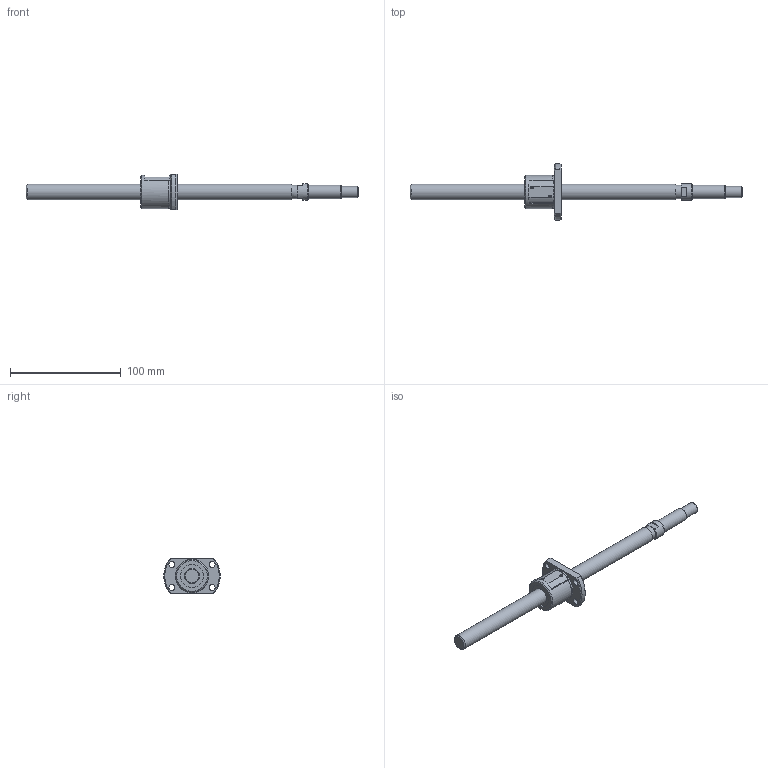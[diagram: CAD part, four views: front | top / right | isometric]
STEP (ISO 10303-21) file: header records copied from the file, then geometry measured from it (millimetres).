
FILE_DESCRIPTION(/* description */ ('STEP AP214'),/* implementation_level */ '2;1');
FILE_NAME(/* name */ 'SG1404-240R300C5A0X(103.5)',/* time_stamp */ '2026-07-24T21:01:19+02:00',/* author */ ('License CC BY-ND 4.0'),/* organization */ ('CADENAS'),/* preprocessor_version */ 'ST-DEVELOPER v20',/* originating_system */ 'PARTsolutions',/* authorisation */ ' ');
FILE_SCHEMA (('AUTOMOTIVE_DESIGN {1 0 10303 214 3 1 1}'));
Length unit declared in the file: millimetre
Products named in the file (3): SG1404-240R300C5A0X(103.5); SG1404-240R300C5A_shaft; SG1404 C5_nut
Assembly tree (2 placements, depth 2):
  SG1404-240R300C5A0X(103.5)
    SG1404-240R300C5A_shaft
    SG1404 C5_nut
Bounding box: 300 x 51 x 32 mm (x, y, z)
Volume: 65272.1 mm3; surface area: 20999.4 mm2
Topology: 2 solids, 2 shells, 78 faces, 191 edges, 125 vertices
Faces by surface type: plane 38, cylinder 26, cone 13, torus 1
Full cylindrical faces by diameter (mm): 5.5 x4, 10 x1, 12 x1, 12.16 x1, 14 x2, 15 x1, 21 x2, 29.6 x1, 30 x1
Entity records: 2213 total; most frequent: CARTESIAN_POINT 409, DIRECTION 376, ORIENTED_EDGE 312, AXIS2_PLACEMENT_3D 157, EDGE_CURVE 156, EDGE_LOOP 120, FACE_BOUND 120, VERTEX_POINT 114
